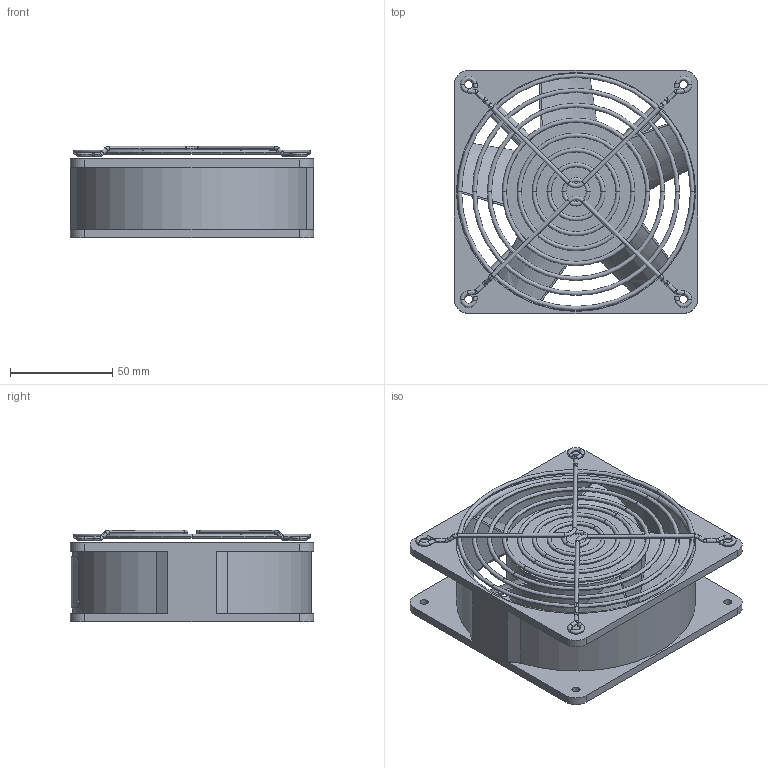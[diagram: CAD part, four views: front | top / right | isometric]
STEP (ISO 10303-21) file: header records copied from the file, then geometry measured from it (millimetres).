
FILE_DESCRIPTION (( 'STEP AP203' ), '1' );
FILE_NAME ('Âåíòèëÿòîð A12B23STXW00 120x120x38.STEP', '2014-01-21T10:59:02', ( 'System' ), ( '' ), 'SwSTEP 2.0', 'SolidWorks 2012', '' );
FILE_SCHEMA (( 'CONFIG_CONTROL_DESIGN' ));
Length unit declared in the file: millimetre
Products named in the file (4): Êîðïóñ âåíòèëÿòîðà; 署囹赅; Ðåøåòêà äëÿ âåíòèëÿòîðà 120ìì; Âåíòèëÿòîð A12B23STXW00 120x120x38
Assembly tree (3 placements, depth 2):
  Âåíòèëÿòîð A12B23STXW00 120x120x38
    Êîðïóñ âåíòèëÿòîðà
    署囹赅
    Ðåøåòêà äëÿ âåíòèëÿòîðà 120ìì
Bounding box: 119 x 119 x 44.7 mm (x, y, z)
Volume: 191445.9 mm3; surface area: 86331.7 mm2
Topology: 3 solids, 3 shells, 305 faces, 815 edges, 509 vertices
Faces by surface type: torus 108, cylinder 98, plane 75, bspline 24
Entity records: 12702 total; most frequent: CARTESIAN_POINT 4649, DIRECTION 1608, ORIENTED_EDGE 1590, EDGE_CURVE 795, AXIS2_PLACEMENT_3D 676, VERTEX_POINT 509, EDGE_LOOP 404, CIRCLE 389
